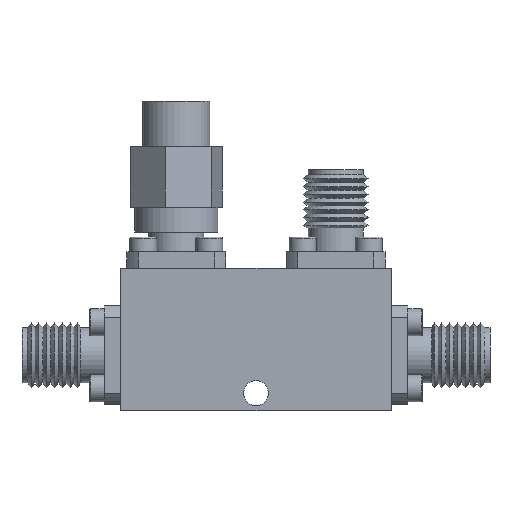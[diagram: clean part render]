
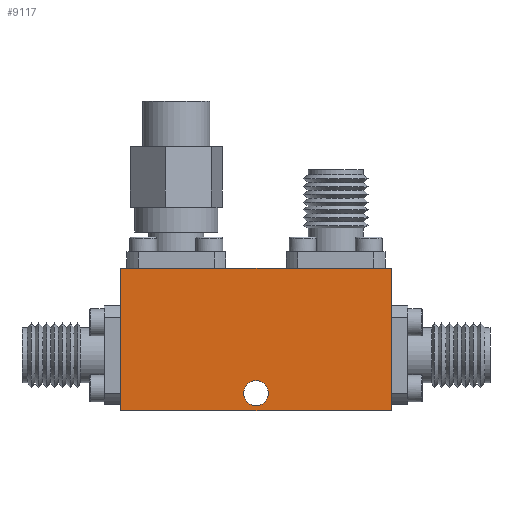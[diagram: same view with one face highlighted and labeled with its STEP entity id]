
A CAD part, front view. The second image highlights one B-rep face of the part: STEP entity #9117.
In plain terms, the highlighted planar face has unit normal (0, -1, 0).
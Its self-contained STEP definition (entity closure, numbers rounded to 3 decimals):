
#422=CIRCLE('',#9326,1.2);
#1824=ORIENTED_EDGE('',*,*,#2132,.T.);
#1825=ORIENTED_EDGE('',*,*,#2113,.T.);
#1826=ORIENTED_EDGE('',*,*,#2102,.T.);
#1827=ORIENTED_EDGE('',*,*,#2146,.T.);
#1828=ORIENTED_EDGE('',*,*,#2144,.T.);
#2102=EDGE_CURVE('',#2799,#2798,#3378,.T.);
#2113=EDGE_CURVE('',#2809,#2799,#3385,.T.);
#2132=EDGE_CURVE('',#2827,#2809,#3396,.T.);
#2144=EDGE_CURVE('',#2838,#2838,#422,.T.);
#2146=EDGE_CURVE('',#2798,#2827,#3404,.T.);
#2798=VERTEX_POINT('',#11862);
#2799=VERTEX_POINT('',#11864);
#2809=VERTEX_POINT('',#11886);
#2827=VERTEX_POINT('',#11924);
#2838=VERTEX_POINT('',#11948);
#3378=LINE('',#11863,#3670);
#3385=LINE('',#11885,#3677);
#3396=LINE('',#11923,#3688);
#3404=LINE('',#11952,#3696);
#3670=VECTOR('',#10063,1000.);
#3677=VECTOR('',#10080,1000.);
#3688=VECTOR('',#10109,1000.);
#3696=VECTOR('',#10135,1000.);
#4415=EDGE_LOOP('',(#1824,#1825,#1826,#1827));
#4416=EDGE_LOOP('',(#1828));
#5159=FACE_BOUND('',#4415,.T.);
#5160=FACE_BOUND('',#4416,.T.);
#5610=PLANE('',#9776);
#9117=ADVANCED_FACE('',(#5159,#5160),#5610,.T.);
#9326=AXIS2_PLACEMENT_3D('',#11947,#10128,#10129);
#9776=AXIS2_PLACEMENT_3D('',#13438,#11294,#11295);
#10063=DIRECTION('',(0.,0.,-1.));
#10080=DIRECTION('',(-1.,0.,0.));
#10109=DIRECTION('',(0.,0.,1.));
#10128=DIRECTION('',(0.,1.,0.));
#10129=DIRECTION('',(0.,0.,-1.));
#10135=DIRECTION('',(1.,0.,0.));
#11294=DIRECTION('',(0.,-1.,0.));
#11295=DIRECTION('',(0.,0.,-1.));
#11862=CARTESIAN_POINT('',(-7.173,4.726,-5.62));
#11863=CARTESIAN_POINT('',(-7.173,4.726,8.1));
#11864=CARTESIAN_POINT('',(-7.173,4.726,8.1));
#11885=CARTESIAN_POINT('',(18.877,4.726,8.1));
#11886=CARTESIAN_POINT('',(18.877,4.726,8.1));
#11923=CARTESIAN_POINT('',(18.877,4.726,8.1));
#11924=CARTESIAN_POINT('',(18.877,4.726,-5.62));
#11947=CARTESIAN_POINT('',(5.852,4.726,-3.92));
#11948=CARTESIAN_POINT('',(5.852,4.726,-5.12));
#11952=CARTESIAN_POINT('',(-7.173,4.726,-5.62));
#13438=CARTESIAN_POINT('',(5.852,4.726,0.5));
